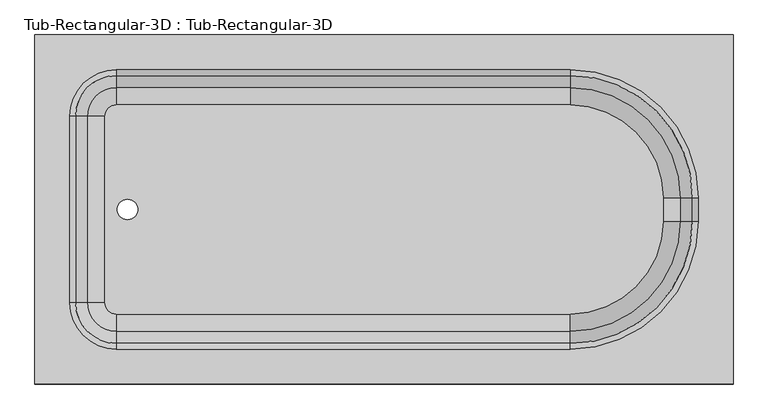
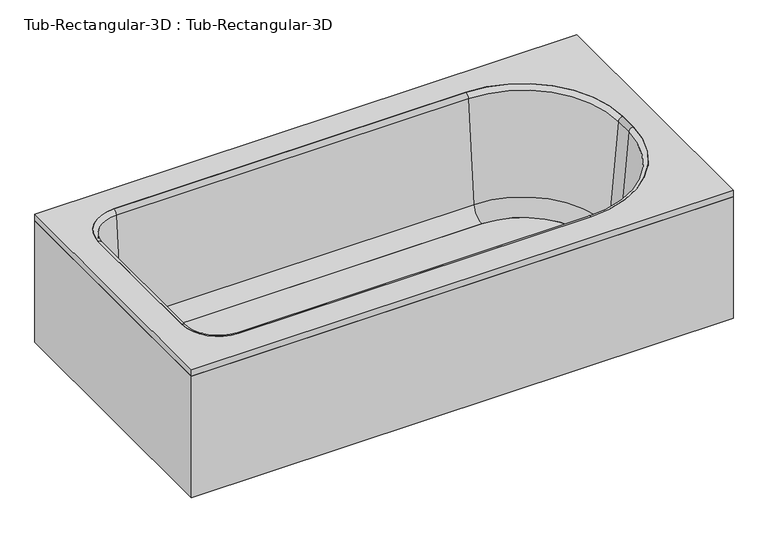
"""IFC4 building model written with IfcOpenShell, lengths in millimetres: flow terminal geometry, Tub-Rectangular-3D : Tub-Rectangular-3D."""

from ifc_helpers import new_model, si_unit, point, frame, frame_2d, origin, origin_with_axes, place, context, project, spatial, polyline, circle_curve, ellipse_curve, trimmed, segment, composite_curve, outline, extrude, source, transform, mapped, element, save
from ifc_brep_helpers import plane_surface, cylinder_surface, revolved_surface, advanced_brep


def tub_rectangular_3d_tub_rectangular_3d_0be0b2e8(model_context):
    return source(origin(), model_context, "Body", "SolidModel", [
        extrude(outline(polyline([(413.3970313, -938.2125), (-1110.6029687, -938.2125), (-1110.6029687, -176.2125), (413.3970313, -176.2125), (413.3970313, -938.2125)]), holes=[composite_curve([segment(polyline([(-932.8029687, -862.0125), (57.7970313, -862.0125)]), True, "CONTINUOUS"), segment(trimmed(circle_curve(frame_2d((57.7970313, -582.6125)), 279.4), [point((57.7970313, -862.0125))], [point((337.1970313, -582.6125))], True, "CARTESIAN"), True, "CONTINUOUS"), segment(polyline([(337.1970313, -582.6125), (337.1970313, -531.8125)]), True, "CONTINUOUS"), segment(trimmed(circle_curve(frame_2d((57.7970313, -531.8125)), 279.4), [point((337.1970313, -531.8125))], [point((57.7970313, -252.4125))], True, "CARTESIAN"), True, "CONTINUOUS"), segment(polyline([(57.7970313, -252.4125), (-932.8029687, -252.4125)]), True, "CONTINUOUS"), segment(trimmed(circle_curve(frame_2d((-932.8029687, -354.0125)), 101.6), [point((-932.8029687, -252.4125))], [point((-1034.4029687, -354.0125))], True, "CARTESIAN"), True, "CONTINUOUS"), segment(polyline([(-1034.4029687, -354.0125), (-1034.4029687, -760.4125)]), True, "CONTINUOUS"), segment(trimmed(circle_curve(frame_2d((-932.8029687, -760.4125)), 101.6), [point((-1034.4029687, -760.4125))], [point((-932.8029687, -862.0125))], True, "CARTESIAN"), True, "CONTINUOUS")], self_intersect=False)]), frame((0.0, 0.0, 361.95), z_axis=(0.0, 0.0, 1.0), x_axis=(1.0, 0.0, 0.0)), (0.0, 0.0, 1.0), 19.05),
        extrude(outline(polyline([(413.3970313, -938.2125), (-1110.6029687, -938.2125), (-1110.6029687, -176.2125), (413.3970313, -176.2125), (413.3970313, -938.2125)]), holes=[polyline([(394.3470313, -919.1625), (394.3470313, -195.2625), (-1091.5529687, -195.2625), (-1091.5529687, -919.1625), (394.3470313, -919.1625)])]), origin_with_axes(), (0.0, 0.0, 1.0), 361.95),
        extrude(outline(composite_curve([segment(polyline([(57.7970313, -785.4089741), (-932.8029687, -785.4089741)]), True, "CONTINUOUS"), segment(trimmed(circle_curve(frame_2d((-932.8029687, -760.4125)), 24.9964741), [point((-932.8029687, -785.4089741))], [point((-957.7994428, -760.4125))], False, "CARTESIAN"), True, "CONTINUOUS"), segment(polyline([(-957.7994428, -760.4125), (-957.7994428, -354.0125)]), True, "CONTINUOUS"), segment(trimmed(circle_curve(frame_2d((-932.8029687, -354.0125)), 24.9964741), [point((-957.7994428, -354.0125))], [point((-932.8029687, -329.0160259))], False, "CARTESIAN"), True, "CONTINUOUS"), segment(polyline([(-932.8029687, -329.0160259), (57.7970313, -329.0160259)]), True, "CONTINUOUS"), segment(trimmed(circle_curve(frame_2d((57.7970313, -531.8125)), 202.7964741), [point((57.7970313, -329.0160259))], [point((260.5935054, -531.8125))], False, "CARTESIAN"), True, "CONTINUOUS"), segment(polyline([(260.5935054, -531.8125), (260.5935054, -582.6125)]), True, "CONTINUOUS"), segment(trimmed(circle_curve(frame_2d((57.7970313, -582.6125)), 202.7964741), [point((260.5935054, -582.6125))], [point((57.7970313, -785.4089741))], False, "CARTESIAN"), True, "CONTINUOUS")], self_intersect=False), holes=[composite_curve([segment(trimmed(circle_curve(frame_2d((-908.510206, -557.2125)), 22.225), [point((-908.510206, -579.4375))], [point((-908.510206, -534.9875))], True, "CARTESIAN"), True, "CONTINUOUS"), segment(trimmed(circle_curve(frame_2d((-908.510206, -557.2125)), 22.225), [point((-908.510206, -534.9875))], [point((-908.510206, -579.4375))], True, "CARTESIAN"), True, "CONTINUOUS")], self_intersect=False)]), frame((0.0, 0.0, 16.863573), z_axis=(0.0, 0.0, 1.0), x_axis=(1.0, 0.0, 0.0)), (0.0, 0.0, 1.0), 19.05),
        advanced_brep(
        [(-995.7544608, -760.4125, 70.6929392), (-1021.9249722, -760.4125, 369.8232535), (-932.8029687, -849.5345035, 369.8232535), (-932.8029687, -823.3639921, 70.6929392), (-957.7994428, -760.4125, 35.913573), (-932.8029687, -785.4089741, 35.913573), (-957.7994428, -760.4125, 16.863573), (-932.8029687, -785.4089741, 16.863573), (-1034.4029687, -760.4125, 16.863573), (-932.8029687, -862.0125, 16.863573), (-1034.4029687, -760.4125, 381.0), (-932.8029687, -862.0125, 381.0), (-995.7544608, -354.0125, 70.6929392), (-1021.9249722, -354.0125, 369.8232535), (-957.7994428, -354.0125, 35.913573), (-957.7994428, -354.0125, 16.863573), (-1034.4029687, -354.0125, 16.863573), (-1034.4029687, -354.0125, 381.0), (-932.8029687, -291.0610079, 70.6929392), (-932.8029687, -264.8904965, 369.8232535), (-932.8029687, -329.0160259, 35.913573), (-932.8029687, -329.0160259, 16.863573), (-932.8029687, -252.4125, 16.863573), (-932.8029687, -252.4125, 381.0), (57.7970313, -291.0610079, 70.6929392), (57.7970313, -264.8904965, 369.8232535), (57.7970313, -329.0160259, 35.913573), (57.7970313, -329.0160259, 16.863573), (57.7970313, -252.4125, 16.863573), (57.7970313, -252.4125, 381.0), (298.5485234, -531.8125, 70.6929392), (324.7190348, -531.8125, 369.8232535), (260.5935054, -531.8125, 35.913573), (260.5935054, -531.8125, 16.863573), (337.1970313, -531.8125, 16.863573), (337.1970313, -531.8125, 381.0), (298.5485234, -582.6125, 70.6929392), (324.7190348, -582.6125, 369.8232535), (260.5935054, -582.6125, 35.913573), (260.5935054, -582.6125, 16.863573), (337.1970313, -582.6125, 16.863573), (337.1970313, -582.6125, 381.0), (57.7970313, -823.3639921, 70.6929392), (57.7970313, -849.5345035, 369.8232535), (57.7970313, -785.4089741, 35.913573), (57.7970313, -785.4089741, 16.863573), (57.7970313, -862.0125, 16.863573), (57.7970313, -862.0125, 381.0)],
        [
            (0, 1),
            (1, 2, circle_curve(frame((-932.8029687, -760.4125, 369.8232535), z_axis=(0.0, 0.0, 1.0), x_axis=(0.0, -1.0, 0.0)), 89.1220035)),
            (2, 3),
            (3, 0, circle_curve(frame((-932.8029687, -760.4125, 70.6929392), z_axis=(0.0, 0.0, -1.0), x_axis=(0.0, -1.0, 0.0)), 62.9514921)),
            (4, 0, circle_curve(frame((-957.7994428, -760.4125, 74.013573), z_axis=(0.0, 1.0, 0.0), x_axis=(1.0, 0.0, 0.0)), 38.1)),
            (3, 5, circle_curve(frame((-932.8029687, -785.4089741, 74.013573), z_axis=(1.0, 0.0, 0.0), x_axis=(0.0, 1.0, 0.0)), 38.1)),
            (5, 4, circle_curve(frame((-932.8029687, -760.4125, 35.913573), z_axis=(0.0, 0.0, -1.0), x_axis=(0.0, -1.0, 0.0)), 24.9964741)),
            (6, 4),
            (5, 7),
            (7, 6, circle_curve(frame((-932.8029687, -760.4125, 16.863573), z_axis=(0.0, 0.0, -1.0), x_axis=(0.0, -1.0, 0.0)), 24.9964741)),
            (8, 6),
            (7, 9),
            (9, 8, circle_curve(frame((-932.8029687, -760.4125, 16.863573), z_axis=(0.0, 0.0, -1.0), x_axis=(0.0, -1.0, 0.0)), 101.6)),
            (10, 8),
            (9, 11),
            (11, 10, circle_curve(frame((-932.8029687, -760.4125, 381.0), z_axis=(0.0, 0.0, -1.0), x_axis=(0.0, -1.0, 0.0)), 101.6)),
            (1, 10, circle_curve(frame((-1034.4029687, -760.4125, 368.4462547), z_axis=(0.0, -1.0, 0.0), x_axis=(1.0, 0.0, 0.0)), 12.5537453)),
            (11, 2, circle_curve(frame((-932.8029687, -862.0125, 368.4462547), z_axis=(-1.0, 0.0, 0.0), x_axis=(0.0, 1.0, 0.0)), 12.5537453)),
            (0, 12),
            (12, 13),
            (13, 1),
            (4, 14),
            (14, 12, circle_curve(frame((-957.7994428, -354.0125, 74.013573), z_axis=(0.0, 1.0, 0.0), x_axis=(1.0, 0.0, 0.0)), 38.1)),
            (6, 15),
            (15, 14),
            (8, 16),
            (16, 15),
            (10, 17),
            (17, 16),
            (13, 17, circle_curve(frame((-1034.4029687, -354.0125, 368.4462547), z_axis=(0.0, -1.0, 0.0), x_axis=(1.0, 0.0, 0.0)), 12.5537453)),
            (18, 19),
            (19, 13, circle_curve(frame((-932.8029687, -354.0125, 369.8232535), z_axis=(0.0, 0.0, 1.0), x_axis=(-1.0, 0.0, 0.0)), 89.1220035)),
            (12, 18, circle_curve(frame((-932.8029687, -354.0125, 70.6929392), z_axis=(0.0, 0.0, -1.0), x_axis=(-1.0, 0.0, 0.0)), 62.9514921)),
            (20, 18, circle_curve(frame((-932.8029687, -329.0160259, 74.013573), z_axis=(1.0, 0.0, 0.0), x_axis=(0.0, -1.0, 0.0)), 38.1)),
            (14, 20, circle_curve(frame((-932.8029687, -354.0125, 35.913573), z_axis=(0.0, 0.0, -1.0), x_axis=(-1.0, 0.0, 0.0)), 24.9964741)),
            (21, 20),
            (15, 21, circle_curve(frame((-932.8029687, -354.0125, 16.863573), z_axis=(0.0, 0.0, -1.0), x_axis=(-1.0, 0.0, 0.0)), 24.9964741)),
            (22, 21),
            (16, 22, circle_curve(frame((-932.8029687, -354.0125, 16.863573), z_axis=(0.0, 0.0, -1.0), x_axis=(-1.0, 0.0, 0.0)), 101.6)),
            (23, 22),
            (17, 23, circle_curve(frame((-932.8029687, -354.0125, 381.0), z_axis=(0.0, 0.0, -1.0), x_axis=(-1.0, 0.0, 0.0)), 101.6)),
            (19, 23, circle_curve(frame((-932.8029687, -252.4125, 368.4462547), z_axis=(-1.0, 0.0, 0.0), x_axis=(0.0, -1.0, 0.0)), 12.5537453)),
            (18, 24),
            (24, 25),
            (25, 19),
            (20, 26),
            (26, 24, circle_curve(frame((57.7970313, -329.0160259, 74.013573), z_axis=(1.0, 0.0, 0.0), x_axis=(0.0, -1.0, 0.0)), 38.1)),
            (21, 27),
            (27, 26),
            (22, 28),
            (28, 27),
            (23, 29),
            (29, 28),
            (25, 29, circle_curve(frame((57.7970313, -252.4125, 368.4462547), z_axis=(-1.0, 0.0, 0.0), x_axis=(0.0, -1.0, 0.0)), 12.5537453)),
            (30, 31),
            (31, 25, circle_curve(frame((57.7970313, -531.8125, 369.8232535), z_axis=(0.0, 0.0, 1.0), x_axis=(0.0, 1.0, 0.0)), 266.9220035)),
            (24, 30, circle_curve(frame((57.7970313, -531.8125, 70.6929392), z_axis=(0.0, 0.0, -1.0), x_axis=(0.0, 1.0, 0.0)), 240.7514921)),
            (32, 30, circle_curve(frame((260.5935054, -531.8125, 74.013573), z_axis=(0.0, -1.0, 0.0), x_axis=(-1.0, 0.0, 0.0)), 38.1)),
            (26, 32, circle_curve(frame((57.7970313, -531.8125, 35.913573), z_axis=(0.0, 0.0, -1.0), x_axis=(0.0, 1.0, 0.0)), 202.7964741)),
            (33, 32),
            (27, 33, circle_curve(frame((57.7970313, -531.8125, 16.863573), z_axis=(0.0, 0.0, -1.0), x_axis=(0.0, 1.0, 0.0)), 202.7964741)),
            (34, 33),
            (28, 34, circle_curve(frame((57.7970313, -531.8125, 16.863573), z_axis=(0.0, 0.0, -1.0), x_axis=(0.0, 1.0, 0.0)), 279.4)),
            (35, 34),
            (29, 35, circle_curve(frame((57.7970313, -531.8125, 381.0), z_axis=(0.0, 0.0, -1.0), x_axis=(0.0, 1.0, 0.0)), 279.4)),
            (31, 35, circle_curve(frame((337.1970313, -531.8125, 368.4462547), z_axis=(0.0, 1.0, 0.0), x_axis=(-1.0, 0.0, 0.0)), 12.5537453)),
            (30, 36),
            (36, 37),
            (37, 31),
            (32, 38),
            (38, 36, circle_curve(frame((260.5935054, -582.6125, 74.013573), z_axis=(0.0, -1.0, 0.0), x_axis=(-1.0, 0.0, 0.0)), 38.1)),
            (33, 39),
            (39, 38),
            (34, 40),
            (40, 39),
            (35, 41),
            (41, 40),
            (37, 41, circle_curve(frame((337.1970313, -582.6125, 368.4462547), z_axis=(0.0, 1.0, 0.0), x_axis=(-1.0, 0.0, 0.0)), 12.5537453)),
            (42, 43),
            (43, 37, circle_curve(frame((57.7970313, -582.6125, 369.8232535), z_axis=(0.0, 0.0, 1.0), x_axis=(1.0, 0.0, 0.0)), 266.9220035)),
            (36, 42, circle_curve(frame((57.7970313, -582.6125, 70.6929392), z_axis=(0.0, 0.0, -1.0), x_axis=(1.0, 0.0, 0.0)), 240.7514921)),
            (44, 42, circle_curve(frame((57.7970313, -785.4089741, 74.013573), z_axis=(-1.0, 0.0, 0.0), x_axis=(0.0, 1.0, 0.0)), 38.1)),
            (38, 44, circle_curve(frame((57.7970313, -582.6125, 35.913573), z_axis=(0.0, 0.0, -1.0), x_axis=(1.0, 0.0, 0.0)), 202.7964741)),
            (45, 44),
            (39, 45, circle_curve(frame((57.7970313, -582.6125, 16.863573), z_axis=(0.0, 0.0, -1.0), x_axis=(1.0, 0.0, 0.0)), 202.7964741)),
            (46, 45),
            (40, 46, circle_curve(frame((57.7970313, -582.6125, 16.863573), z_axis=(0.0, 0.0, -1.0), x_axis=(1.0, 0.0, 0.0)), 279.4)),
            (47, 46),
            (41, 47, circle_curve(frame((57.7970313, -582.6125, 381.0), z_axis=(0.0, 0.0, -1.0), x_axis=(1.0, 0.0, 0.0)), 279.4)),
            (43, 47, circle_curve(frame((57.7970313, -862.0125, 368.4462547), z_axis=(1.0, 0.0, 0.0), x_axis=(0.0, 1.0, 0.0)), 12.5537453)),
            (42, 3),
            (2, 43),
            (44, 5),
            (45, 7),
            (46, 9),
            (47, 11),
        ],
        [
            revolved_surface(polyline([(-932.8029687, -849.5345035, 369.8232535), (-932.8029687, -823.3639921, 70.6929392)]), (-932.8029687, -760.4125, 381.0), (0.0, 0.0, 1.0)),
            revolved_surface(trimmed(ellipse_curve(frame((-932.8029687, -785.4089741, 74.013573), z_axis=(1.0, 0.0, 0.0), x_axis=(0.0, 1.0, 0.0)), 38.1, 38.1), [point((-932.8029687, -823.3639921, 70.6929392))], [point((-932.8029687, -785.4089741, 35.913573))], True, "CARTESIAN"), (-932.8029687, -760.4125, 381.0), (0.0, 0.0, 1.0)),
            revolved_surface(polyline([(-932.8029687, -785.4089741, 35.913572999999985), (-932.8029687, -785.4089741, 16.863572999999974)]), (-932.8029687, -760.4125, 381.0), (0.0, 0.0, 1.0)),
            plane_surface(frame((-932.8029687, -760.4125, 16.863573), z_axis=(0.0, 0.0, -1.0), x_axis=(0.0, -1.0, 0.0))),
            cylinder_surface(frame((-932.8029687, -760.4125, 381.0), z_axis=(0.0, 0.0, 1.0), x_axis=(0.0, -1.0, 0.0)), 101.6),
            revolved_surface(trimmed(ellipse_curve(frame((-932.8029687, -862.0125, 368.4462547), z_axis=(-1.0, 0.0, 0.0), x_axis=(0.0, 1.0, 0.0)), 12.5537453, 12.5537453), [point((-932.8029687, -862.0125, 381.0))], [point((-932.8029687, -849.5345035, 369.8232535))], True, "CARTESIAN"), (-932.8029687, -760.4125, 381.0), (0.0, 0.0, 1.0)),
            plane_surface(frame((-1021.9249722, -760.4125, 369.8232535), z_axis=(0.9961946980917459, 0.0, 0.08715574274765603), x_axis=(0.0, 1.0, 0.0))),
            revolved_surface(polyline([(-919.6994427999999, -354.0125, 74.013573), (-919.6994427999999, -760.4125, 74.013573)]), (-957.7994428, -760.4125, 74.013573), (0.0, 1.0, 0.0)),
            plane_surface(frame((-957.7994428, -760.4125, 35.913573), z_axis=(1.0, 0.0, 0.0), x_axis=(0.0, 1.0, 0.0))),
            plane_surface(frame((-957.7994428, -760.4125, 16.863573), z_axis=(0.0, 0.0, -1.0), x_axis=(0.0, 1.0, 0.0))),
            plane_surface(frame((-1034.4029687, -760.4125, 16.863573), z_axis=(-1.0, 0.0, 0.0), x_axis=(0.0, 1.0, 0.0))),
            cylinder_surface(frame((-1034.4029687, -760.4125, 368.4462547), z_axis=(0.0, -1.0, 0.0), x_axis=(1.0, 0.0, 0.0)), 12.5537453),
            revolved_surface(polyline([(-1021.9249722, -354.0125, 369.8232535), (-995.7544608, -354.0125, 70.6929392)]), (-932.8029687, -354.0125, 381.0), (0.0, 0.0, 1.0)),
            revolved_surface(trimmed(ellipse_curve(frame((-957.7994428, -354.0125, 74.013573), z_axis=(0.0, -1.0, 0.0), x_axis=(1.0, 0.0, 0.0)), 38.1, 38.1), [point((-995.7544608, -354.0125, 70.6929392))], [point((-957.7994428, -354.0125, 35.913573))], True, "CARTESIAN"), (-932.8029687, -354.0125, 381.0), (0.0, 0.0, 1.0)),
            revolved_surface(polyline([(-957.7994428, -354.0125, 35.913572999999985), (-957.7994428, -354.0125, 16.863572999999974)]), (-932.8029687, -354.0125, 381.0), (0.0, 0.0, 1.0)),
            plane_surface(frame((-932.8029687, -354.0125, 16.863573), z_axis=(0.0, 0.0, -1.0), x_axis=(-1.0, 0.0, 0.0))),
            cylinder_surface(frame((-932.8029687, -354.0125, 381.0), z_axis=(0.0, 0.0, 1.0), x_axis=(-1.0, 0.0, 0.0)), 101.6),
            revolved_surface(trimmed(ellipse_curve(frame((-1034.4029687, -354.0125, 368.4462547), z_axis=(0.0, 1.0, 0.0), x_axis=(1.0, 0.0, 0.0)), 12.5537453, 12.5537453), [point((-1034.4029687, -354.0125, 381.0))], [point((-1021.9249722, -354.0125, 369.8232535))], True, "CARTESIAN"), (-932.8029687, -354.0125, 381.0), (0.0, 0.0, 1.0)),
            plane_surface(frame((-932.8029687, -264.8904965, 369.8232535), z_axis=(0.0, -0.996194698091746, 0.08715574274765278), x_axis=(1.0, 0.0, 0.0))),
            revolved_surface(polyline([(57.79703129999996, -367.1160259, 74.013573), (-932.8029687, -367.1160259, 74.013573)]), (-932.8029687, -329.0160259, 74.013573), (1.0, 0.0, 0.0)),
            plane_surface(frame((-932.8029687, -329.0160259, 35.913573), z_axis=(0.0, -1.0, 0.0), x_axis=(1.0, 0.0, 0.0))),
            plane_surface(frame((-932.8029687, -329.0160259, 16.863573), z_axis=(0.0, 0.0, -1.0), x_axis=(1.0, 0.0, 0.0))),
            plane_surface(frame((-932.8029687, -252.4125, 16.863573), z_axis=(0.0, 1.0, 0.0), x_axis=(1.0, 0.0, 0.0))),
            cylinder_surface(frame((-932.8029687, -252.4125, 368.4462547), z_axis=(-1.0, 0.0, 0.0), x_axis=(0.0, -1.0, 0.0)), 12.5537453),
            revolved_surface(polyline([(57.7970313, -264.8904965, 369.8232535), (57.7970313, -291.0610079, 70.6929392)]), (57.7970313, -531.8125, 381.0), (0.0, 0.0, 1.0)),
            revolved_surface(trimmed(ellipse_curve(frame((57.7970313, -329.0160259, 74.013573), z_axis=(-1.0, 0.0, 0.0), x_axis=(0.0, -1.0, 0.0)), 38.1, 38.1), [point((57.7970313, -291.0610079, 70.6929392))], [point((57.7970313, -329.0160259, 35.913573))], True, "CARTESIAN"), (57.7970313, -531.8125, 381.0), (0.0, 0.0, 1.0)),
            revolved_surface(polyline([(57.7970313, -329.0160259, 35.913572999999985), (57.7970313, -329.0160259, 16.863572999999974)]), (57.7970313, -531.8125, 381.0), (0.0, 0.0, 1.0)),
            plane_surface(frame((57.7970313, -531.8125, 16.863573), z_axis=(0.0, 0.0, -1.0), x_axis=(0.0, 1.0, 0.0))),
            cylinder_surface(frame((57.7970313, -531.8125, 381.0), z_axis=(0.0, 0.0, 1.0), x_axis=(0.0, 1.0, 0.0)), 279.4),
            revolved_surface(trimmed(ellipse_curve(frame((57.7970313, -252.4125, 368.4462547), z_axis=(1.0, 0.0, 0.0), x_axis=(0.0, -1.0, 0.0)), 12.5537453, 12.5537453), [point((57.7970313, -252.4125, 381.0))], [point((57.7970313, -264.8904965, 369.8232535))], True, "CARTESIAN"), (57.7970313, -531.8125, 381.0), (0.0, 0.0, 1.0)),
            plane_surface(frame((324.7190348, -531.8125, 369.8232535), z_axis=(-0.9961946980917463, 0.0, 0.08715574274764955), x_axis=(0.0, -1.0, 0.0))),
            revolved_surface(polyline([(222.49350540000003, -582.6125, 74.013573), (222.49350540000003, -531.8125, 74.013573)]), (260.5935054, -531.8125, 74.013573), (0.0, -1.0, 0.0)),
            plane_surface(frame((260.5935054, -531.8125, 35.913573), z_axis=(-1.0, 0.0, 0.0), x_axis=(0.0, -1.0, 0.0))),
            plane_surface(frame((260.5935054, -531.8125, 16.863573), z_axis=(0.0, 0.0, -1.0), x_axis=(0.0, -1.0, 0.0))),
            plane_surface(frame((337.1970313, -531.8125, 16.863573), z_axis=(1.0, 0.0, 0.0), x_axis=(0.0, -1.0, 0.0))),
            cylinder_surface(frame((337.1970313, -531.8125, 368.4462547), z_axis=(0.0, 1.0, 0.0), x_axis=(-1.0, 0.0, 0.0)), 12.5537453),
            revolved_surface(polyline([(324.7190348, -582.6125, 369.8232535), (298.5485234, -582.6125, 70.6929392)]), (57.7970313, -582.6125, 381.0), (0.0, 0.0, 1.0)),
            revolved_surface(trimmed(ellipse_curve(frame((260.5935054, -582.6125, 74.013573), z_axis=(0.0, 1.0, 0.0), x_axis=(-1.0, 0.0, 0.0)), 38.1, 38.1), [point((298.5485234, -582.6125, 70.6929392))], [point((260.5935054, -582.6125, 35.913573))], True, "CARTESIAN"), (57.7970313, -582.6125, 381.0), (0.0, 0.0, 1.0)),
            revolved_surface(polyline([(260.5935054, -582.6125, 35.913572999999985), (260.5935054, -582.6125, 16.863572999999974)]), (57.7970313, -582.6125, 381.0), (0.0, 0.0, 1.0)),
            plane_surface(frame((57.7970313, -582.6125, 16.863573), z_axis=(0.0, 0.0, -1.0), x_axis=(1.0, 0.0, 0.0))),
            cylinder_surface(frame((57.7970313, -582.6125, 381.0), z_axis=(0.0, 0.0, 1.0), x_axis=(1.0, 0.0, 0.0)), 279.4),
            revolved_surface(trimmed(ellipse_curve(frame((337.1970313, -582.6125, 368.4462547), z_axis=(0.0, -1.0, 0.0), x_axis=(-1.0, 0.0, 0.0)), 12.5537453, 12.5537453), [point((337.1970313, -582.6125, 381.0))], [point((324.7190348, -582.6125, 369.8232535))], True, "CARTESIAN"), (57.7970313, -582.6125, 381.0), (0.0, 0.0, 1.0)),
            plane_surface(frame((57.7970313, -849.5345035, 369.8232535), z_axis=(0.0, 0.996194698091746, 0.08715574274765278), x_axis=(-1.0, 0.0, 0.0))),
            revolved_surface(polyline([(-932.8029687, -747.3089741, 74.013573), (57.7970313, -747.3089741, 74.013573)]), (57.7970313, -785.4089741, 74.013573), (-1.0, 0.0, 0.0)),
            plane_surface(frame((57.7970313, -785.4089741, 35.913573), z_axis=(0.0, 1.0, 0.0), x_axis=(-1.0, 0.0, 0.0))),
            plane_surface(frame((57.7970313, -785.4089741, 16.863573), z_axis=(0.0, 0.0, -1.0), x_axis=(-1.0, 0.0, 0.0))),
            plane_surface(frame((57.7970313, -862.0125, 16.863573), z_axis=(0.0, -1.0, 0.0), x_axis=(-1.0, 0.0, 0.0))),
            cylinder_surface(frame((57.7970313, -862.0125, 368.4462547), z_axis=(1.0, 0.0, 0.0), x_axis=(0.0, 1.0, 0.0)), 12.5537453),
        ],
        [
            (0, [[1, 2, 3, 4]]),
            (1, [[5, -4, 6, 7]]),
            (2, [[8, -7, 9, 10]]),
            (3, [[11, -10, 12, 13]]),
            (4, [[14, -13, 15, 16]]),
            (5, [[17, -16, 18, -2]]),
            (6, [[19, 20, 21, -1]]),
            (7, [[22, 23, -19, -5]]),
            (8, [[24, 25, -22, -8]]),
            (9, [[26, 27, -24, -11]]),
            (10, [[28, 29, -26, -14]]),
            (11, [[-21, 30, -28, -17]]),
            (12, [[31, 32, -20, 33]]),
            (13, [[34, -33, -23, 35]]),
            (14, [[36, -35, -25, 37]]),
            (15, [[38, -37, -27, 39]]),
            (16, [[40, -39, -29, 41]]),
            (17, [[42, -41, -30, -32]]),
            (18, [[43, 44, 45, -31]]),
            (19, [[46, 47, -43, -34]]),
            (20, [[48, 49, -46, -36]]),
            (21, [[50, 51, -48, -38]]),
            (22, [[52, 53, -50, -40]]),
            (23, [[-45, 54, -52, -42]]),
            (24, [[55, 56, -44, 57]]),
            (25, [[58, -57, -47, 59]]),
            (26, [[60, -59, -49, 61]]),
            (27, [[62, -61, -51, 63]]),
            (28, [[64, -63, -53, 65]]),
            (29, [[66, -65, -54, -56]]),
            (30, [[67, 68, 69, -55]]),
            (31, [[70, 71, -67, -58]]),
            (32, [[72, 73, -70, -60]]),
            (33, [[74, 75, -72, -62]]),
            (34, [[76, 77, -74, -64]]),
            (35, [[-69, 78, -76, -66]]),
            (36, [[79, 80, -68, 81]]),
            (37, [[82, -81, -71, 83]]),
            (38, [[84, -83, -73, 85]]),
            (39, [[86, -85, -75, 87]]),
            (40, [[88, -87, -77, 89]]),
            (41, [[90, -89, -78, -80]]),
            (42, [[91, -3, 92, -79]]),
            (43, [[93, -6, -91, -82]]),
            (44, [[94, -9, -93, -84]]),
            (45, [[95, -12, -94, -86]]),
            (46, [[96, -15, -95, -88]]),
            (47, [[-92, -18, -96, -90]]),
        ],
    ),
    ])


if __name__ == "__main__":
    model = new_model("IFC4")
    model_context = context("Model", 3, world=origin())
    ifc_project = project(units=[si_unit("LENGTHUNIT", "METRE", prefix="MILLI")], contexts=[model_context])
    site = spatial("IfcSite", under=ifc_project)
    building = spatial("IfcBuilding", under=site)
    placement = place(None, origin())
    tub_rectangular_3d_tub_rectangular_3d_shape = tub_rectangular_3d_tub_rectangular_3d_0be0b2e8(model_context)
    element("IfcFlowTerminal", 1, ObjectType="Tub-Rectangular-3D : Tub-Rectangular-3D", at=placement, inside=building, context=model_context, shape_type="MappedRepresentation", body=[
        mapped(tub_rectangular_3d_tub_rectangular_3d_shape, transform((0.0, 0.0, 0.0), x_axis=(1.0, 0.0, 0.0), y_axis=(0.0, 1.0, 0.0), z_axis=(0.0, 0.0, 1.0))),
    ])
    save(model, "model.ifc")
